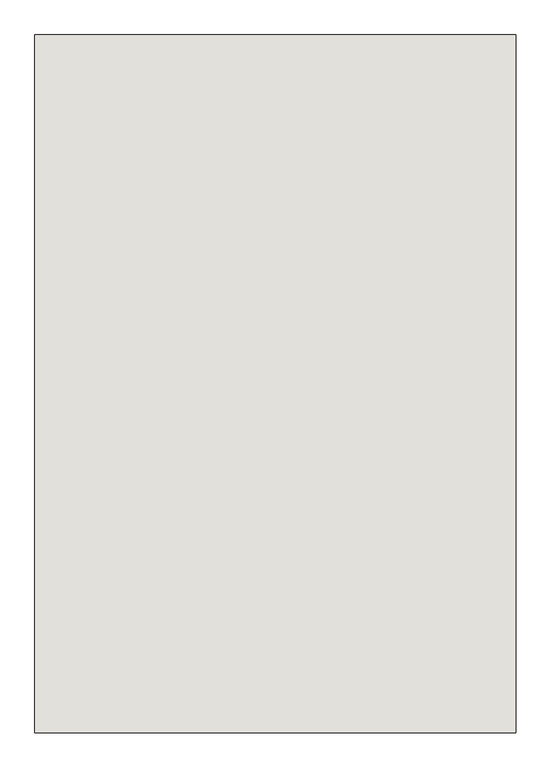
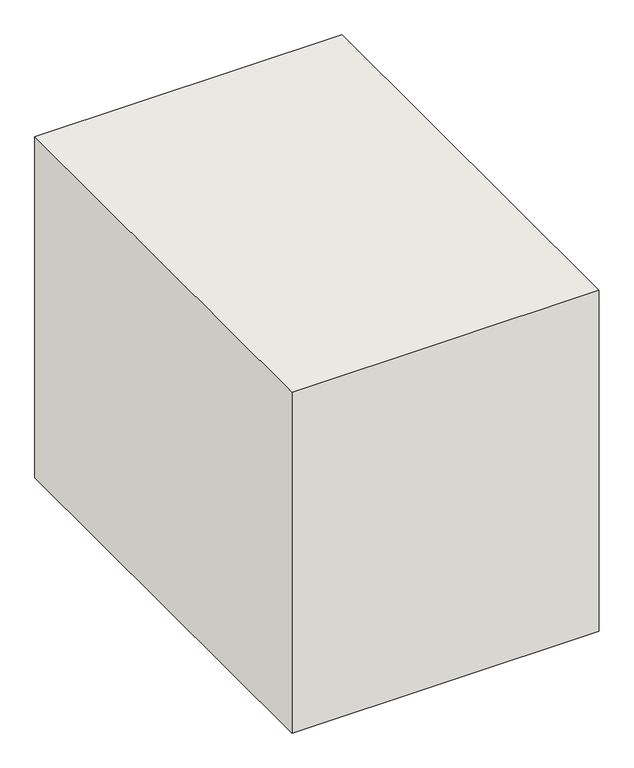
"""IFC4 building model written with IfcOpenShell, lengths in millimetres: wall geometry, 消防土地公 : 消防土地公."""

from ifc_helpers import new_model, si_unit, origin, origin_with_axes, place, context, project, spatial, polyline, outline, extrude, source, transform, mapped, element, save


def wall_d95d6aa4(model_context):
    return source(origin(), model_context, "Body", "SweptSolid", [
        extrude(outline(polyline([(-16959.1310056, -13279.9049261), (-15759.1310053, -13279.9049261), (-15759.1310053, -15019.9049261), (-16959.1310056, -15019.9049261), (-16959.1310056, -13279.9049261)])), origin_with_axes(), (0.0, 0.0, 1.0), 1408.0),
    ])


if __name__ == "__main__":
    model = new_model("IFC4")
    model_context = context("Model", 3, world=origin())
    ifc_project = project(units=[si_unit("LENGTHUNIT", "METRE", prefix="MILLI")], contexts=[model_context])
    site = spatial("IfcSite", under=ifc_project)
    building = spatial("IfcBuilding", under=site)
    placement = place(None, origin())
    wall_shape = wall_d95d6aa4(model_context)
    element("IfcWall", 1, ObjectType="消防土地公 : 消防土地公", at=placement, inside=building, context=model_context, shape_type="MappedRepresentation", body=[
        mapped(wall_shape, transform((0.0, 0.0, 0.0), x_axis=(1.0, 0.0, 0.0), y_axis=(0.0, 1.0, 0.0), z_axis=(0.0, 0.0, 1.0))),
    ])
    save(model, "model.ifc")
